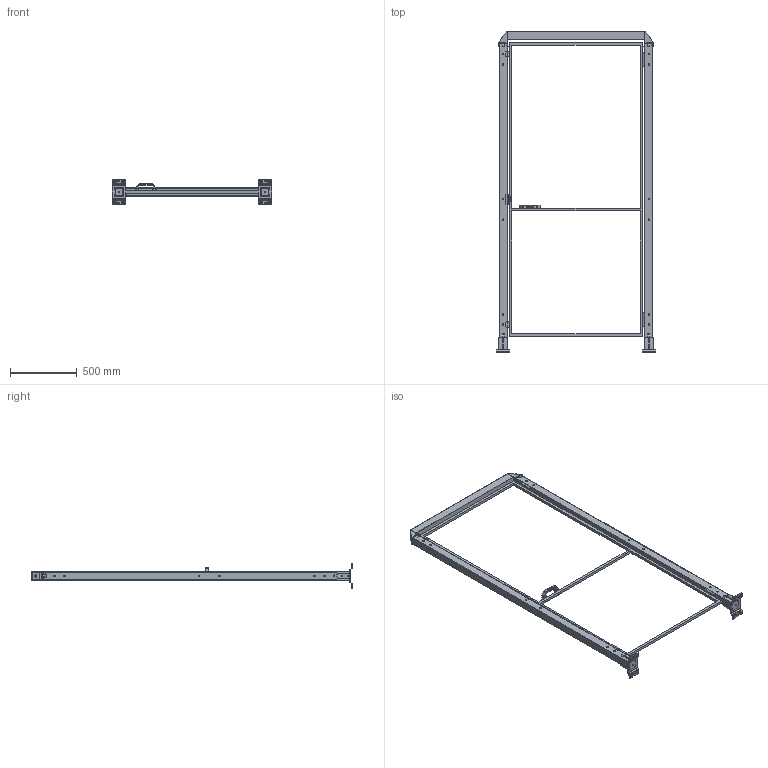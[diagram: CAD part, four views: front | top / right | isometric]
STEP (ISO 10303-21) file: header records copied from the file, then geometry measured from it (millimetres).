
FILE_DESCRIPTION(('STEP AP242'),'1');
FILE_NAME('vfda_bscncr2_10002320.stp','2025-01-23T13:59:02',('TraceParts'),('TraceParts S.A.'),'Spatial InterOp 3D',' ',' ');
FILE_SCHEMA(('AP242_MANAGED_MODEL_BASED_3D_ENGINEERING_MIM_LF {1 0 10303 442 1 1 4}'));
Length unit declared in the file: millimetre
Products named in the file (1): vfda_bscncr2_10002320_1
Bounding box: 1190 x 2401 x 192 mm (x, y, z)
Volume: 5462152.4 mm3; surface area: 3541260 mm2
Topology: 12 solids, 12 shells, 1942 faces, 5208 edges, 3340 vertices
Faces by surface type: plane 950, cylinder 652, bspline 236, cone 60, torus 40, sphere 4
Entity records: 78408 total; most frequent: CARTESIAN_POINT 14215, ORIENTED_EDGE 10408, DIRECTION 9578, EDGE_CURVE 5204, VERTEX_POINT 3340, LINE 3216, VECTOR 3216, AXIS2_PLACEMENT_3D 3181
